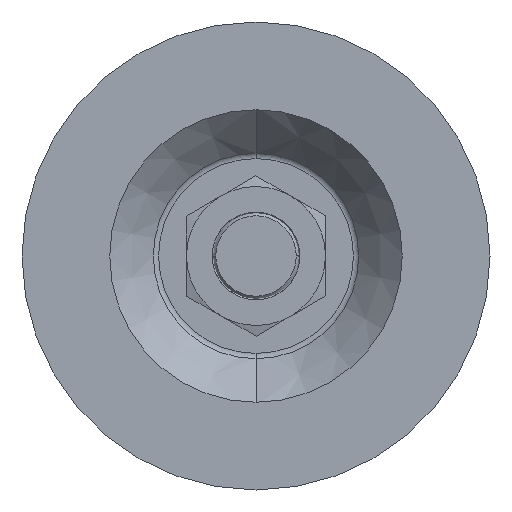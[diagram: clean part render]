
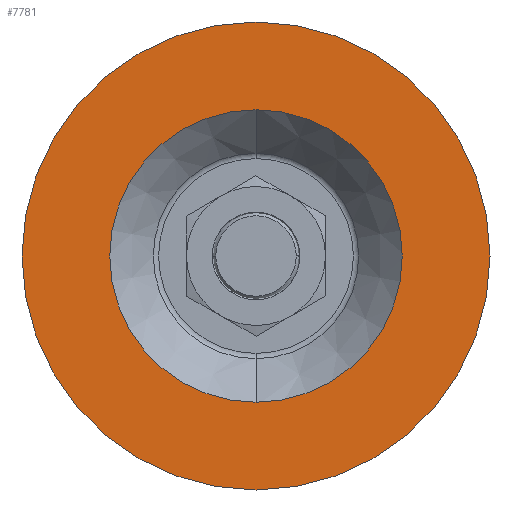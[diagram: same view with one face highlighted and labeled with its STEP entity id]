
A CAD part, front view. The second image highlights one B-rep face of the part: STEP entity #7781.
In plain terms, the highlighted planar face has unit normal (0, -1, 0).
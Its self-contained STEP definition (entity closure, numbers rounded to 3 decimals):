
#62 = EDGE_CURVE ( 'NONE', #7907, #1379, #2336, .T. ) ;
#507 = VERTEX_POINT ( 'NONE', #8364 ) ;
#701 = DIRECTION ( 'NONE',  ( 0., -1., 0. ) ) ;
#810 = CARTESIAN_POINT ( 'NONE',  ( 0., -2.8, 32. ) ) ;
#948 = ORIENTED_EDGE ( 'NONE', *, *, #7334, .T. ) ;
#1002 = CIRCLE ( 'NONE', #6978, 32. ) ;
#1193 = CARTESIAN_POINT ( 'NONE',  ( 0., -2.8, -20. ) ) ;
#1311 = CARTESIAN_POINT ( 'NONE',  ( 0., -2.8, 0. ) ) ;
#1379 = VERTEX_POINT ( 'NONE', #5691 ) ;
#1469 = AXIS2_PLACEMENT_3D ( 'NONE', #1311, #3297, #7948 ) ;
#1690 = ORIENTED_EDGE ( 'NONE', *, *, #4844, .F. ) ;
#2336 = CIRCLE ( 'NONE', #7967, 20. ) ;
#2517 = PLANE ( 'NONE',  #4255 ) ;
#2644 = CARTESIAN_POINT ( 'NONE',  ( 0., -2.8, 0. ) ) ;
#2827 = EDGE_LOOP ( 'NONE', ( #7544, #1690 ) ) ;
#2962 = DIRECTION ( 'NONE',  ( 0., -1., 0. ) ) ;
#3062 = CIRCLE ( 'NONE', #8238, 32. ) ;
#3297 = DIRECTION ( 'NONE',  ( 0., -1., 0. ) ) ;
#4255 = AXIS2_PLACEMENT_3D ( 'NONE', #5864, #4578, #6524 ) ;
#4258 = CIRCLE ( 'NONE', #1469, 20. ) ;
#4440 = FACE_BOUND ( 'NONE', #2827, .T. ) ;
#4553 = DIRECTION ( 'NONE',  ( 0., 0., -1. ) ) ;
#4578 = DIRECTION ( 'NONE',  ( 0., -1., 0. ) ) ;
#4694 = ORIENTED_EDGE ( 'NONE', *, *, #8193, .T. ) ;
#4770 = FACE_OUTER_BOUND ( 'NONE', #8535, .T. ) ;
#4844 = EDGE_CURVE ( 'NONE', #1379, #7907, #4258, .T. ) ;
#4920 = CARTESIAN_POINT ( 'NONE',  ( 0., -2.8, 0. ) ) ;
#5192 = VERTEX_POINT ( 'NONE', #810 ) ;
#5642 = DIRECTION ( 'NONE',  ( 0., 0., -1. ) ) ;
#5691 = CARTESIAN_POINT ( 'NONE',  ( 0., -2.8, 20. ) ) ;
#5864 = CARTESIAN_POINT ( 'NONE',  ( 32., -2.8, 0. ) ) ;
#6524 = DIRECTION ( 'NONE',  ( 0., 0., -1. ) ) ;
#6725 = DIRECTION ( 'NONE',  ( 0., 0., -1. ) ) ;
#6978 = AXIS2_PLACEMENT_3D ( 'NONE', #2644, #701, #6725 ) ;
#7334 = EDGE_CURVE ( 'NONE', #507, #5192, #3062, .T. ) ;
#7544 = ORIENTED_EDGE ( 'NONE', *, *, #62, .F. ) ;
#7781 = ADVANCED_FACE ( 'NONE', ( #4770, #4440 ), #2517, .T. ) ;
#7828 = CARTESIAN_POINT ( 'NONE',  ( 0., -2.8, 0. ) ) ;
#7907 = VERTEX_POINT ( 'NONE', #1193 ) ;
#7948 = DIRECTION ( 'NONE',  ( 0., 0., -1. ) ) ;
#7967 = AXIS2_PLACEMENT_3D ( 'NONE', #4920, #2962, #5642 ) ;
#8193 = EDGE_CURVE ( 'NONE', #5192, #507, #1002, .T. ) ;
#8238 = AXIS2_PLACEMENT_3D ( 'NONE', #7828, #8511, #4553 ) ;
#8364 = CARTESIAN_POINT ( 'NONE',  ( 0., -2.8, -32. ) ) ;
#8511 = DIRECTION ( 'NONE',  ( 0., -1., 0. ) ) ;
#8535 = EDGE_LOOP ( 'NONE', ( #948, #4694 ) ) ;
